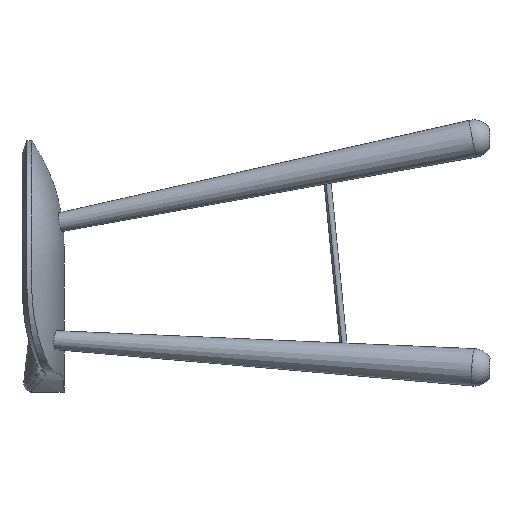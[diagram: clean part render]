
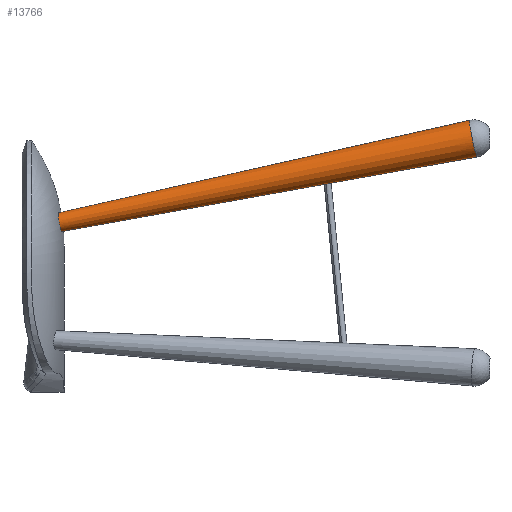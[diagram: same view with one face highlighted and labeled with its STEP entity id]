
A CAD part, left-side view. The second image highlights one B-rep face of the part: STEP entity #13766.
In plain terms, the highlighted conical face has half-angle 1.256 degrees and reference radius 25.394 mm.
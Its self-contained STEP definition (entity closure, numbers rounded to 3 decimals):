
#365 = CARTESIAN_POINT ( 'NONE',  ( -92.498, 3.94, 217.913 ) ) ;
#427 = ORIENTED_EDGE ( 'NONE', *, *, #10807, .F. ) ;
#451 = CARTESIAN_POINT ( 'NONE',  ( -101.831, 5.331, 222.727 ) ) ;
#532 = EDGE_LOOP ( 'NONE', ( #10734, #12720, #9391, #427 ) ) ;
#607 = CARTESIAN_POINT ( 'NONE',  ( -94.962, 4.174, 218.304 ) ) ;
#721 = LINE ( 'NONE', #14481, #6905 ) ;
#1376 = EDGE_CURVE ( 'NONE', #8339, #7359, #721, .T. ) ;
#1401 = VECTOR ( 'NONE', #6308, 1000. ) ;
#1403 = CARTESIAN_POINT ( 'NONE',  ( -96.986, 8.283, 242.026 ) ) ;
#1699 = CONICAL_SURFACE ( 'NONE', #10104, 25.394, 0.022 ) ;
#1735 = CARTESIAN_POINT ( 'NONE',  ( -102.534, 5.544, 223.755 ) ) ;
#1814 = CARTESIAN_POINT ( 'NONE',  ( -91.654, 3.879, 217.925 ) ) ;
#1996 = DIRECTION ( 'NONE',  ( -0.064, -0.982, 0.176 ) ) ;
#2167 = CARTESIAN_POINT ( 'NONE',  ( -91.714, 8.043, 243.235 ) ) ;
#2471 = EDGE_CURVE ( 'NONE', #14737, #5644, #2767, .T. ) ;
#2517 = CARTESIAN_POINT ( 'NONE',  ( -95.825, 8.275, 242.52 ) ) ;
#2696 = EDGE_CURVE ( 'NONE', #8339, #14737, #12125, .T. ) ;
#2767 = LINE ( 'NONE', #10670, #1401 ) ;
#2847 = CARTESIAN_POINT ( 'NONE',  ( -102.773, 7.787, 236.753 ) ) ;
#2870 = CARTESIAN_POINT ( 'NONE',  ( -92.547, 8.116, 243.22 ) ) ;
#2928 = CARTESIAN_POINT ( 'NONE',  ( -100.446, 8.138, 239.686 ) ) ;
#3007 = CARTESIAN_POINT ( 'NONE',  ( -103.349, 7.629, 235.635 ) ) ;
#3162 = FACE_OUTER_BOUND ( 'NONE', #532, .T. ) ;
#3822 = CARTESIAN_POINT ( 'NONE',  ( -103.827, 7.458, 234.483 ) ) ;
#3901 = CARTESIAN_POINT ( 'NONE',  ( -104.472, 6.862, 230.819 ) ) ;
#3973 = CARTESIAN_POINT ( 'NONE',  ( -104.387, 6.502, 228.765 ) ) ;
#3991 = CARTESIAN_POINT ( 'NONE',  ( -97.369, 8.281, 241.84 ) ) ;
#4051 = CARTESIAN_POINT ( 'NONE',  ( -101.866, 7.969, 238.146 ) ) ;
#4973 = CARTESIAN_POINT ( 'NONE',  ( -97.33, 4.464, 219.133 ) ) ;
#5050 = CARTESIAN_POINT ( 'NONE',  ( -103.507, 5.908, 225.579 ) ) ;
#5134 = CARTESIAN_POINT ( 'NONE',  ( -104.453, 6.932, 231.232 ) ) ;
#5202 = CARTESIAN_POINT ( 'NONE',  ( -101.301, 5.194, 222.096 ) ) ;
#5644 = VERTEX_POINT ( 'NONE', #13629 ) ;
#6235 = CARTESIAN_POINT ( 'NONE',  ( -95.766, 4.265, 218.535 ) ) ;
#6308 = DIRECTION ( 'NONE',  ( -0.064, -0.974, 0.219 ) ) ;
#6391 = CARTESIAN_POINT ( 'NONE',  ( -100.413, 4.998, 221.23 ) ) ;
#6658 = DIRECTION ( 'NONE',  ( 0., -0.198, -0.98 ) ) ;
#6905 = VECTOR ( 'NONE', #1996, 1000. ) ;
#7359 = VERTEX_POINT ( 'NONE', #13713 ) ;
#7376 = CARTESIAN_POINT ( 'NONE',  ( -93.331, 4.01, 217.984 ) ) ;
#7534 = CARTESIAN_POINT ( 'NONE',  ( -100.134, 8.165, 239.97 ) ) ;
#8323 = CARTESIAN_POINT ( 'NONE',  ( -91.714, 8.043, 243.235 ) ) ;
#8339 = VERTEX_POINT ( 'NONE', #10145 ) ;
#8583 = CARTESIAN_POINT ( 'NONE',  ( -98.065, 4.572, 219.514 ) ) ;
#8604 = CARTESIAN_POINT ( 'NONE',  ( -95.029, 8.253, 242.772 ) ) ;
#8662 = CARTESIAN_POINT ( 'NONE',  ( -103.168, 7.684, 236.016 ) ) ;
#8990 = DIRECTION ( 'NONE',  ( -0.064, -0.978, 0.198 ) ) ;
#9391 = ORIENTED_EDGE ( 'NONE', *, *, #1376, .T. ) ;
#9548 = CARTESIAN_POINT ( 'NONE',  ( -100.102, 4.934, 220.955 ) ) ;
#9626 = CARTESIAN_POINT ( 'NONE',  ( -103.79, 6.056, 226.351 ) ) ;
#9705 = CARTESIAN_POINT ( 'NONE',  ( -104.311, 7.139, 232.475 ) ) ;
#9773 = CARTESIAN_POINT ( 'NONE',  ( -102.559, 7.835, 237.11 ) ) ;
#9853 = CARTESIAN_POINT ( 'NONE',  ( -99.489, 8.211, 240.503 ) ) ;
#10104 = AXIS2_PLACEMENT_3D ( 'NONE', #13710, #13292, #6658 ) ;
#10145 = CARTESIAN_POINT ( 'NONE',  ( -91.654, 3.879, 217.925 ) ) ;
#10670 = CARTESIAN_POINT ( 'NONE',  ( -128.553, -550.33, 368.934 ) ) ;
#10734 = ORIENTED_EDGE ( 'NONE', *, *, #2471, .F. ) ;
#10807 = EDGE_CURVE ( 'NONE', #5644, #7359, #13233, .T. ) ;
#10844 = CARTESIAN_POINT ( 'NONE',  ( -99.11, 4.748, 220.19 ) ) ;
#10914 = CARTESIAN_POINT ( 'NONE',  ( -96.166, 4.313, 218.671 ) ) ;
#10997 = CARTESIAN_POINT ( 'NONE',  ( -104.372, 7.071, 232.061 ) ) ;
#11327 = AXIS2_PLACEMENT_3D ( 'NONE', #14839, #8990, #12606 ) ;
#11627 = CARTESIAN_POINT ( 'NONE',  ( -98.107, 8.269, 241.438 ) ) ;
#11908 = CARTESIAN_POINT ( 'NONE',  ( -99.448, 4.808, 220.433 ) ) ;
#11989 = CARTESIAN_POINT ( 'NONE',  ( -94.557, 4.131, 218.209 ) ) ;
#12125 = B_SPLINE_CURVE_WITH_KNOTS ( 'NONE', 3,
 ( #1814, #365, #7376, #11989, #607, #6235, #10914, #4973, #8583, #10844, #11908, #9548, #6391, #5202, #451, #1735, #14141, #14362, #5050, #9626, #14293, #13318, #3973, #14218, #3901, #5134, #10997, #9705, #13152, #3822, #3007, #8662, #2847, #9773, #4051, #13240, #2928, #7534, #9853, #14446, #11627, #3991, #1403, #2517, #8604, #13895, #2870, #8323 ),
 .UNSPECIFIED., .F., .F.,
 ( 4, 2, 2, 2, 2, 2, 2, 2, 2, 1, 2, 2, 2, 2, 2, 2, 2, 2, 2, 2, 1, 2, 2, 2, 4 ),
 ( 0.08, 0.083, 0.084, 0.085, 0.088, 0.089, 0.09, 0.093, 0.094, 0.095, 0.096, 0.098, 0.1, 0.101, 0.103, 0.105, 0.106, 0.108, 0.11, 0.111, 0.113, 0.114, 0.115, 0.118, 0.12 ),
 .UNSPECIFIED. ) ;
#12606 = DIRECTION ( 'NONE',  ( 0., 0.198, 0.98 ) ) ;
#12720 = ORIENTED_EDGE ( 'NONE', *, *, #2696, .F. ) ;
#13152 = CARTESIAN_POINT ( 'NONE',  ( -104.068, 7.336, 233.693 ) ) ;
#13233 = CIRCLE ( 'NONE', #11327, 25.394 ) ;
#13240 = CARTESIAN_POINT ( 'NONE',  ( -101.338, 8.046, 238.79 ) ) ;
#13292 = DIRECTION ( 'NONE',  ( -0.064, -0.978, 0.198 ) ) ;
#13318 = CARTESIAN_POINT ( 'NONE',  ( -104.139, 6.279, 227.543 ) ) ;
#13629 = CARTESIAN_POINT ( 'NONE',  ( -128.553, -550.33, 368.934 ) ) ;
#13710 = CARTESIAN_POINT ( 'NONE',  ( -128.553, -555.361, 344.043 ) ) ;
#13713 = CARTESIAN_POINT ( 'NONE',  ( -128.553, -560.393, 319.153 ) ) ;
#13766 = ADVANCED_FACE ( 'NONE', ( #3162 ), #1699, .T. ) ;
#13895 = CARTESIAN_POINT ( 'NONE',  ( -93.394, 8.173, 243.123 ) ) ;
#14141 = CARTESIAN_POINT ( 'NONE',  ( -102.753, 5.617, 224.112 ) ) ;
#14218 = CARTESIAN_POINT ( 'NONE',  ( -104.47, 6.648, 229.584 ) ) ;
#14293 = CARTESIAN_POINT ( 'NONE',  ( -104.035, 6.204, 227.139 ) ) ;
#14362 = CARTESIAN_POINT ( 'NONE',  ( -103.149, 5.762, 224.838 ) ) ;
#14446 = CARTESIAN_POINT ( 'NONE',  ( -98.821, 8.248, 241.003 ) ) ;
#14481 = CARTESIAN_POINT ( 'NONE',  ( -128.553, -560.393, 319.153 ) ) ;
#14737 = VERTEX_POINT ( 'NONE', #2167 ) ;
#14839 = CARTESIAN_POINT ( 'NONE',  ( -128.553, -555.361, 344.043 ) ) ;
